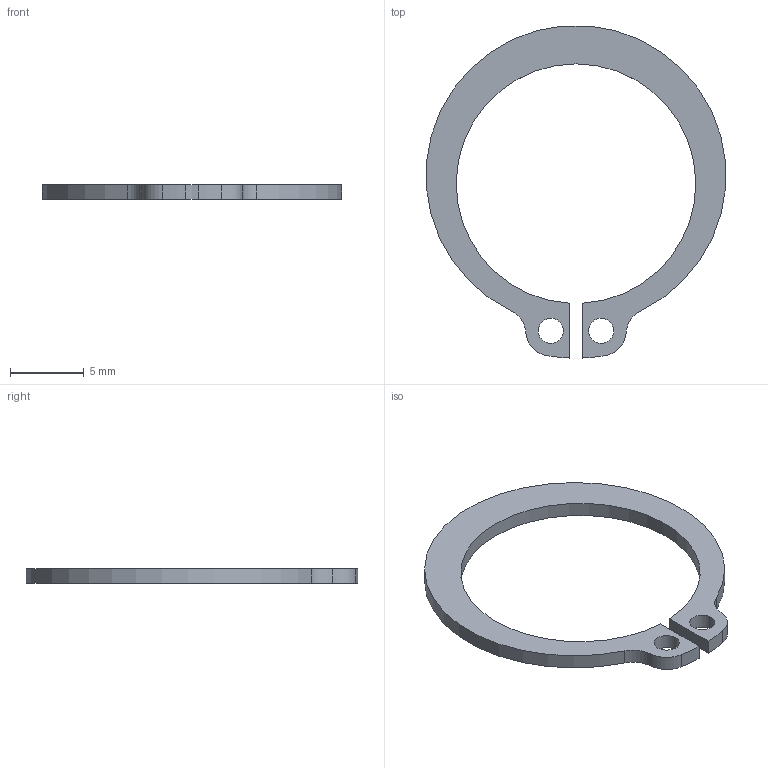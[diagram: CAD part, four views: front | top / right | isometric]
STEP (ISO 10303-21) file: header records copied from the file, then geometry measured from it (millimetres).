
FILE_DESCRIPTION(/* description */ ('리테이닝 링(C형)'),/* implementation_level */ '2;1');
FILE_NAME(/* name */ '',/* time_stamp */ '2026-04-27T11:17:06+09:00',/* author */ ('jhkim'),/* organization */ (''),/* preprocessor_version */ 'ST-DEVELOPER v20.1',/* originating_system */ 'Autodesk Inventor 2027',/* authorisation */ '');
FILE_SCHEMA (('AUTOMOTIVE_DESIGN { 1 0 10303 214 3 1 1 }'));
Length unit declared in the file: millimetre
Products named in the file (1): 축용 C형 멈춤링 17
Bounding box: 20.23 x 22.45 x 1 mm (x, y, z)
Volume: 124.7 mm3; surface area: 383.5 mm2
Topology: 1 solids, 1 shells, 14 faces, 36 edges, 24 vertices
Faces by surface type: cylinder 10, plane 4
Full cylindrical faces by diameter (mm): 1.7 x2
Entity records: 491 total; most frequent: DIRECTION 86, CARTESIAN_POINT 75, ORIENTED_EDGE 72, EDGE_CURVE 36, AXIS2_PLACEMENT_3D 35, VERTEX_POINT 24, CIRCLE 20, EDGE_LOOP 18
